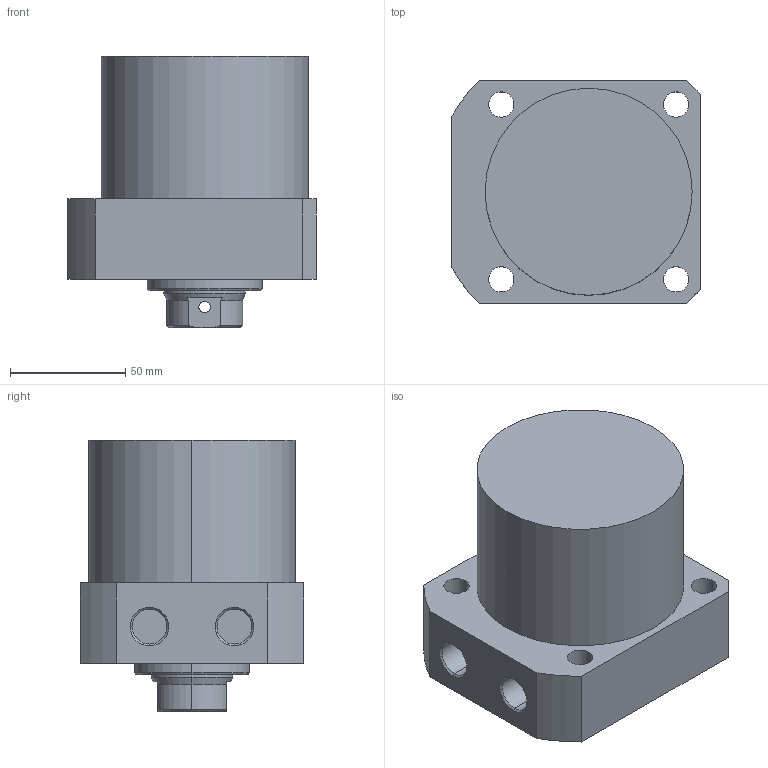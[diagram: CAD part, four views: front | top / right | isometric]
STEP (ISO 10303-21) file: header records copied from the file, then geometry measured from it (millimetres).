
FILE_DESCRIPTION (( 'STEP AP203' ), '1' );
FILE_NAME ('CLLR-090CB-040.STEP', '2019-12-19T02:30:19', ( '' ), ( '' ), 'SwSTEP 2.0', 'SolidWorks 2015', '' );
FILE_SCHEMA (( 'CONFIG_CONTROL_DESIGN' ));
Length unit declared in the file: millimetre
Products named in the file (1): CLLR-090CB-040
Bounding box: 108 x 97 x 118 mm (x, y, z)
Volume: 744441.1 mm3; surface area: 62715.8 mm2
Topology: 1 solids, 1 shells, 67 faces, 161 edges, 102 vertices
Faces by surface type: cylinder 33, plane 19, cone 15
Entity records: 2179 total; most frequent: CARTESIAN_POINT 477, DIRECTION 360, ORIENTED_EDGE 318, EDGE_CURVE 159, AXIS2_PLACEMENT_3D 145, VERTEX_POINT 102, EDGE_LOOP 87, CIRCLE 77
